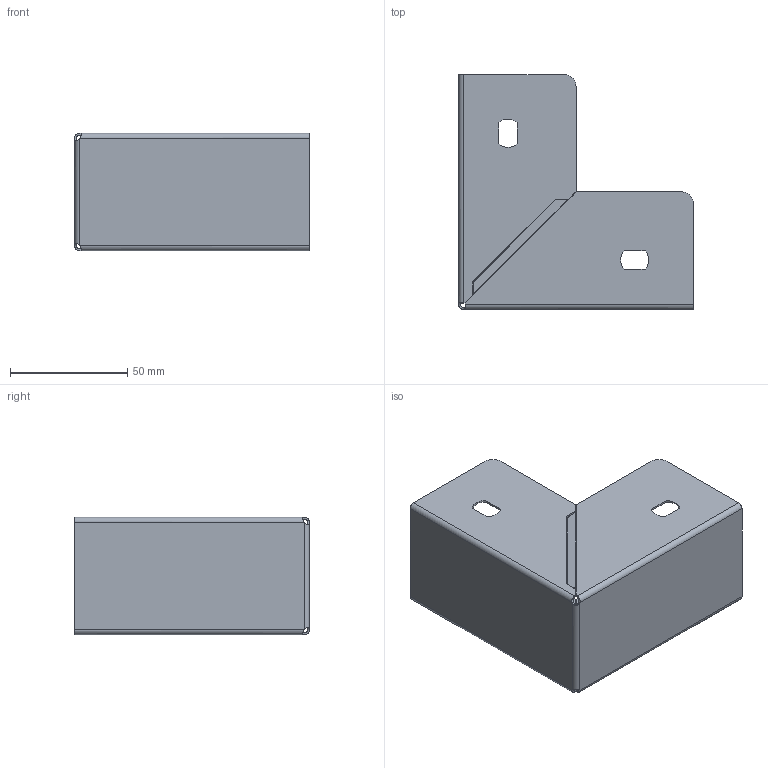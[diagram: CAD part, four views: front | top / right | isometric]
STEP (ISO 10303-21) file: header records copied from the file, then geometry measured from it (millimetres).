
FILE_DESCRIPTION (( 'STEP AP203' ), '1' );
FILE_NAME ('CCERE50_1PZA ZZZZ x YYYY.step', '2023-07-28T14:40:10', ( '' ), ( '' ), 'SwSTEP 2.0', 'SolidWorks 2022', '' );
FILE_SCHEMA (( 'CONFIG_CONTROL_DESIGN' ));
Length unit declared in the file: millimetre
Products named in the file (1): CCERE50_1PZA ZZZZ x YYYY
Bounding box: 100 x 100 x 50 mm (x, y, z)
Volume: 19789.6 mm3; surface area: 50231 mm2
Topology: 1 solids, 1 shells, 132 faces, 318 edges, 188 vertices
Faces by surface type: plane 74, cylinder 40, bspline 18
Entity records: 4141 total; most frequent: CARTESIAN_POINT 1151, ORIENTED_EDGE 636, DIRECTION 552, EDGE_CURVE 318, VECTOR 202, LINE 202, VERTEX_POINT 188, AXIS2_PLACEMENT_3D 175
